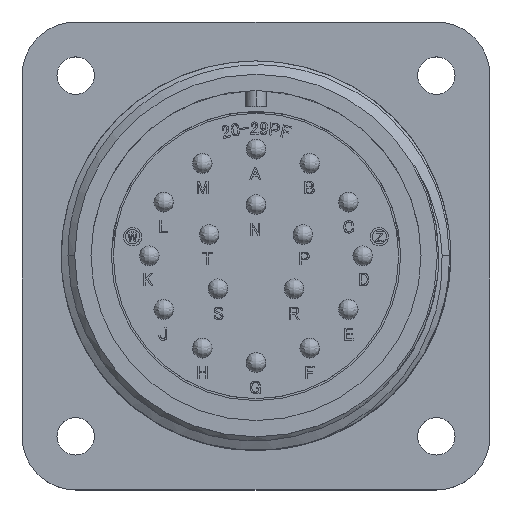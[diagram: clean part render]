
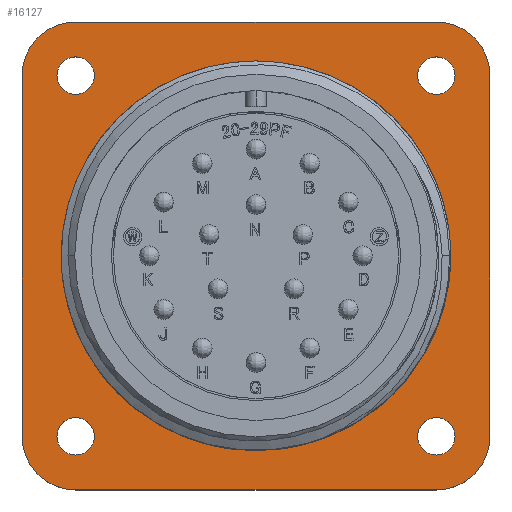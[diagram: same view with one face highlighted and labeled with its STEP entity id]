
A CAD part, top view. The second image highlights one B-rep face of the part: STEP entity #16127.
In plain terms, the highlighted planar face has unit normal (0, 0, 1).
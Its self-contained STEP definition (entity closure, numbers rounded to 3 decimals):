
#347 = ORIENTED_EDGE ( 'NONE', *, *, #41266, .F. ) ;
#377 = CARTESIAN_POINT ( 'NONE',  ( -14.685, -14.685, 0. ) ) ;
#707 = CARTESIAN_POINT ( 'NONE',  ( 16.21, 14.685, 0. ) ) ;
#727 = AXIS2_PLACEMENT_3D ( 'NONE', #34497, #6987, #39075 ) ;
#850 = CARTESIAN_POINT ( 'NONE',  ( 15.855, 0., 0. ) ) ;
#1782 = VERTEX_POINT ( 'NONE', #28191 ) ;
#1876 = CIRCLE ( 'NONE', #51798, 1.525 ) ;
#2601 = CARTESIAN_POINT ( 'NONE',  ( 14.685, 14.685, 0. ) ) ;
#3045 = VECTOR ( 'NONE', #30685, 1000. ) ;
#3890 = DIRECTION ( 'NONE',  ( -1., 0., 0. ) ) ;
#4433 = VERTEX_POINT ( 'NONE', #14223 ) ;
#5007 = DIRECTION ( 'NONE',  ( 1., 0., 0. ) ) ;
#5645 = LINE ( 'NONE', #31406, #43700 ) ;
#6159 = EDGE_LOOP ( 'NONE', ( #49669, #52969 ) ) ;
#6987 = DIRECTION ( 'NONE',  ( 0., 0., 1. ) ) ;
#7229 = DIRECTION ( 'NONE',  ( 1., 0., 0. ) ) ;
#7431 = CIRCLE ( 'NONE', #49887, 15.855 ) ;
#7554 = DIRECTION ( 'NONE',  ( 0., 0., 1. ) ) ;
#8501 = EDGE_LOOP ( 'NONE', ( #54379 ) ) ;
#8581 = ORIENTED_EDGE ( 'NONE', *, *, #13603, .F. ) ;
#9814 = AXIS2_PLACEMENT_3D ( 'NONE', #25257, #57285, #29900 ) ;
#10270 = FACE_BOUND ( 'NONE', #8501, .T. ) ;
#11893 = CARTESIAN_POINT ( 'NONE',  ( 19.05, 14.68, 0. ) ) ;
#12128 = ORIENTED_EDGE ( 'NONE', *, *, #48136, .F. ) ;
#12183 = ORIENTED_EDGE ( 'NONE', *, *, #43338, .F. ) ;
#12721 = CARTESIAN_POINT ( 'NONE',  ( 14.68, 19.05, 0. ) ) ;
#13124 = ORIENTED_EDGE ( 'NONE', *, *, #39830, .F. ) ;
#13198 = VERTEX_POINT ( 'NONE', #52479 ) ;
#13272 = CARTESIAN_POINT ( 'NONE',  ( 0., 0., 0. ) ) ;
#13603 = EDGE_CURVE ( 'NONE', #38409, #38409, #59105, .T. ) ;
#13743 = DIRECTION ( 'NONE',  ( 0., 0., -1. ) ) ;
#13840 = ORIENTED_EDGE ( 'NONE', *, *, #49009, .F. ) ;
#14223 = CARTESIAN_POINT ( 'NONE',  ( 14.68, -19.05, 0. ) ) ;
#14680 = CIRCLE ( 'NONE', #727, 15.855 ) ;
#14910 = CARTESIAN_POINT ( 'NONE',  ( -14.68, 19.05, 0. ) ) ;
#15254 = LINE ( 'NONE', #39316, #3045 ) ;
#15990 = AXIS2_PLACEMENT_3D ( 'NONE', #2601, #34740, #7229 ) ;
#16127 = ADVANCED_FACE ( 'NONE', ( #22479, #57583, #59007, #10270, #45423, #33261 ), #39649, .F. ) ;
#17764 = DIRECTION ( 'NONE',  ( 0., 0., -1. ) ) ;
#17908 = DIRECTION ( 'NONE',  ( 1., 0., 0. ) ) ;
#18011 = CIRCLE ( 'NONE', #15990, 1.525 ) ;
#18584 = CARTESIAN_POINT ( 'NONE',  ( -14.68, 14.68, 0. ) ) ;
#18987 = CARTESIAN_POINT ( 'NONE',  ( -13.16, -14.685, 0. ) ) ;
#19604 = VERTEX_POINT ( 'NONE', #11893 ) ;
#20258 = CIRCLE ( 'NONE', #49637, 4.37 ) ;
#21418 = DIRECTION ( 'NONE',  ( 0., 0., -1. ) ) ;
#21454 = AXIS2_PLACEMENT_3D ( 'NONE', #45203, #17764, #49807 ) ;
#22479 = FACE_BOUND ( 'NONE', #50735, .T. ) ;
#22582 = AXIS2_PLACEMENT_3D ( 'NONE', #377, #32504, #5007 ) ;
#23176 = DIRECTION ( 'NONE',  ( 1., 0., 0. ) ) ;
#23629 = DIRECTION ( 'NONE',  ( 0., 1., 0. ) ) ;
#23924 = ORIENTED_EDGE ( 'NONE', *, *, #40705, .F. ) ;
#24437 = DIRECTION ( 'NONE',  ( 0., 0., 1. ) ) ;
#24680 = CARTESIAN_POINT ( 'NONE',  ( -14.68, -19.05, 0. ) ) ;
#25045 = EDGE_LOOP ( 'NONE', ( #23924 ) ) ;
#25257 = CARTESIAN_POINT ( 'NONE',  ( 14.68, 14.68, 0. ) ) ;
#25298 = LINE ( 'NONE', #49876, #48278 ) ;
#25910 = VERTEX_POINT ( 'NONE', #850 ) ;
#27884 = VECTOR ( 'NONE', #23629, 1000. ) ;
#28191 = CARTESIAN_POINT ( 'NONE',  ( 16.21, -14.685, 0. ) ) ;
#29508 = EDGE_CURVE ( 'NONE', #25910, #55752, #7431, .T. ) ;
#29900 = DIRECTION ( 'NONE',  ( 1., 0., 0. ) ) ;
#30447 = CARTESIAN_POINT ( 'NONE',  ( -14.68, 14.68, 0. ) ) ;
#30685 = DIRECTION ( 'NONE',  ( 0., -1., 0. ) ) ;
#31406 = CARTESIAN_POINT ( 'NONE',  ( -14.68, -19.05, 0. ) ) ;
#32504 = DIRECTION ( 'NONE',  ( 0., 0., 1. ) ) ;
#32836 = CARTESIAN_POINT ( 'NONE',  ( -13.16, 14.685, 0. ) ) ;
#33261 = FACE_BOUND ( 'NONE', #6159, .T. ) ;
#34492 = CIRCLE ( 'NONE', #42518, 4.37 ) ;
#34497 = CARTESIAN_POINT ( 'NONE',  ( 0., 0., 0. ) ) ;
#34740 = DIRECTION ( 'NONE',  ( 0., 0., 1. ) ) ;
#35073 = CARTESIAN_POINT ( 'NONE',  ( -14.685, 14.685, 0. ) ) ;
#36030 = CIRCLE ( 'NONE', #40936, 1.525 ) ;
#36970 = VERTEX_POINT ( 'NONE', #32836 ) ;
#38409 = VERTEX_POINT ( 'NONE', #18987 ) ;
#38603 = CARTESIAN_POINT ( 'NONE',  ( -15.855, 0., 0. ) ) ;
#39075 = DIRECTION ( 'NONE',  ( 1., 0., 0. ) ) ;
#39316 = CARTESIAN_POINT ( 'NONE',  ( 19.05, 14.68, 0. ) ) ;
#39636 = DIRECTION ( 'NONE',  ( 1., 0., 0. ) ) ;
#39649 = PLANE ( 'NONE',  #50659 ) ;
#39796 = ORIENTED_EDGE ( 'NONE', *, *, #47677, .F. ) ;
#39830 = EDGE_CURVE ( 'NONE', #1782, #1782, #36030, .T. ) ;
#39969 = EDGE_LOOP ( 'NONE', ( #13124 ) ) ;
#40095 = LINE ( 'NONE', #51070, #27884 ) ;
#40160 = CARTESIAN_POINT ( 'NONE',  ( 19.05, -14.68, 0. ) ) ;
#40583 = VERTEX_POINT ( 'NONE', #40160 ) ;
#40630 = CARTESIAN_POINT ( 'NONE',  ( -19.05, 14.68, 0. ) ) ;
#40657 = EDGE_CURVE ( 'NONE', #58516, #19604, #55966, .T. ) ;
#40705 = EDGE_CURVE ( 'NONE', #49151, #49151, #18011, .T. ) ;
#40936 = AXIS2_PLACEMENT_3D ( 'NONE', #51865, #24437, #56440 ) ;
#41224 = CARTESIAN_POINT ( 'NONE',  ( 14.68, -14.68, 0. ) ) ;
#41266 = EDGE_CURVE ( 'NONE', #47211, #52745, #34492, .T. ) ;
#42455 = EDGE_CURVE ( 'NONE', #13198, #47211, #40095, .T. ) ;
#42518 = AXIS2_PLACEMENT_3D ( 'NONE', #18584, #50612, #23176 ) ;
#43338 = EDGE_CURVE ( 'NONE', #48884, #13198, #57174, .T. ) ;
#43700 = VECTOR ( 'NONE', #3890, 1000. ) ;
#44557 = EDGE_LOOP ( 'NONE', ( #46179, #12183, #56106, #12128, #13840, #58031, #39796, #347 ) ) ;
#44657 = EDGE_CURVE ( 'NONE', #36970, #36970, #1876, .T. ) ;
#45203 = CARTESIAN_POINT ( 'NONE',  ( -14.68, -14.68, 0. ) ) ;
#45273 = DIRECTION ( 'NONE',  ( 1., 0., 0. ) ) ;
#45347 = DIRECTION ( 'NONE',  ( 0., 0., 1. ) ) ;
#45423 = FACE_OUTER_BOUND ( 'NONE', #44557, .T. ) ;
#45813 = DIRECTION ( 'NONE',  ( 1., 0., 0. ) ) ;
#46179 = ORIENTED_EDGE ( 'NONE', *, *, #42455, .F. ) ;
#47211 = VERTEX_POINT ( 'NONE', #40630 ) ;
#47677 = EDGE_CURVE ( 'NONE', #52745, #58516, #25298, .T. ) ;
#48136 = EDGE_CURVE ( 'NONE', #40583, #4433, #20258, .T. ) ;
#48278 = VECTOR ( 'NONE', #45273, 1000. ) ;
#48884 = VERTEX_POINT ( 'NONE', #24680 ) ;
#49009 = EDGE_CURVE ( 'NONE', #19604, #40583, #15254, .T. ) ;
#49151 = VERTEX_POINT ( 'NONE', #707 ) ;
#49637 = AXIS2_PLACEMENT_3D ( 'NONE', #41224, #13743, #45813 ) ;
#49669 = ORIENTED_EDGE ( 'NONE', *, *, #29508, .F. ) ;
#49807 = DIRECTION ( 'NONE',  ( 1., 0., 0. ) ) ;
#49876 = CARTESIAN_POINT ( 'NONE',  ( -14.68, 19.05, 0. ) ) ;
#49887 = AXIS2_PLACEMENT_3D ( 'NONE', #13272, #45347, #17908 ) ;
#50612 = DIRECTION ( 'NONE',  ( 0., 0., -1. ) ) ;
#50659 = AXIS2_PLACEMENT_3D ( 'NONE', #30447, #21418, #53451 ) ;
#50735 = EDGE_LOOP ( 'NONE', ( #8581 ) ) ;
#51070 = CARTESIAN_POINT ( 'NONE',  ( -19.05, 14.68, 0. ) ) ;
#51798 = AXIS2_PLACEMENT_3D ( 'NONE', #35073, #7554, #39636 ) ;
#51865 = CARTESIAN_POINT ( 'NONE',  ( 14.685, -14.685, 0. ) ) ;
#52479 = CARTESIAN_POINT ( 'NONE',  ( -19.05, -14.68, 0. ) ) ;
#52543 = EDGE_CURVE ( 'NONE', #4433, #48884, #5645, .T. ) ;
#52745 = VERTEX_POINT ( 'NONE', #14910 ) ;
#52969 = ORIENTED_EDGE ( 'NONE', *, *, #56087, .F. ) ;
#53451 = DIRECTION ( 'NONE',  ( 0., -1., 0. ) ) ;
#54379 = ORIENTED_EDGE ( 'NONE', *, *, #44657, .F. ) ;
#55752 = VERTEX_POINT ( 'NONE', #38603 ) ;
#55966 = CIRCLE ( 'NONE', #9814, 4.37 ) ;
#56087 = EDGE_CURVE ( 'NONE', #55752, #25910, #14680, .T. ) ;
#56106 = ORIENTED_EDGE ( 'NONE', *, *, #52543, .F. ) ;
#56440 = DIRECTION ( 'NONE',  ( 1., 0., 0. ) ) ;
#57174 = CIRCLE ( 'NONE', #21454, 4.37 ) ;
#57285 = DIRECTION ( 'NONE',  ( 0., 0., -1. ) ) ;
#57583 = FACE_BOUND ( 'NONE', #39969, .T. ) ;
#58031 = ORIENTED_EDGE ( 'NONE', *, *, #40657, .F. ) ;
#58516 = VERTEX_POINT ( 'NONE', #12721 ) ;
#59007 = FACE_BOUND ( 'NONE', #25045, .T. ) ;
#59105 = CIRCLE ( 'NONE', #22582, 1.525 ) ;
